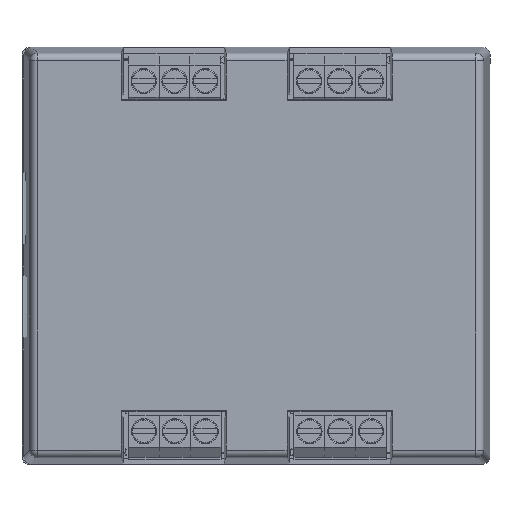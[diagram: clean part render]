
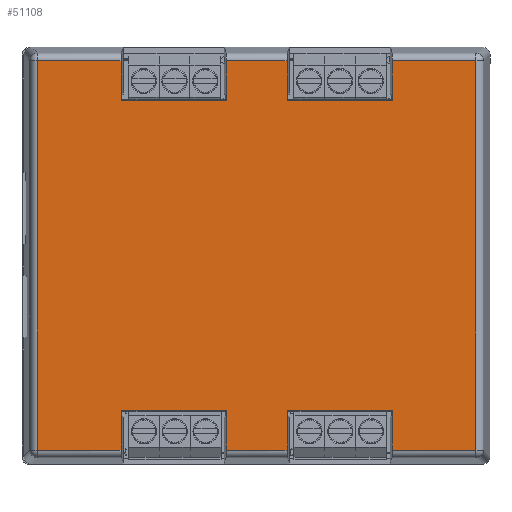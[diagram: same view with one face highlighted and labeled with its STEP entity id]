
A CAD part, top view. The second image highlights one B-rep face of the part: STEP entity #51108.
In plain terms, the highlighted planar face has unit normal (-0.003, 0, 1) as drawn and (0, 0, -1) by its records, which use the part's own axes.
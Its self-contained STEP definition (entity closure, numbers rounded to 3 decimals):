
#18434=VERTEX_POINT('',#78055);
#18435=VERTEX_POINT('',#78057);
#18441=VERTEX_POINT('',#78070);
#18442=VERTEX_POINT('',#78072);
#18454=VERTEX_POINT('',#78105);
#18455=VERTEX_POINT('',#78107);
#18470=VERTEX_POINT('',#78150);
#18471=VERTEX_POINT('',#78152);
#18485=VERTEX_POINT('',#78187);
#18486=VERTEX_POINT('',#78189);
#18499=VERTEX_POINT('',#78226);
#18500=VERTEX_POINT('',#78228);
#18666=VERTEX_POINT('',#78651);
#18668=VERTEX_POINT('',#78657);
#18669=VERTEX_POINT('',#78661);
#18671=VERTEX_POINT('',#78667);
#18674=VERTEX_POINT('',#78679);
#18682=VERTEX_POINT('',#78702);
#18683=VERTEX_POINT('',#78704);
#18684=VERTEX_POINT('',#78706);
#22655=VECTOR('',#61809,1.);
#22662=VECTOR('',#61817,1.);
#22679=VECTOR('',#61840,1.);
#22698=VECTOR('',#61872,1.);
#22716=VECTOR('',#61895,1.);
#22733=VECTOR('',#61922,1.);
#22925=VECTOR('',#62165,1.);
#22927=VECTOR('',#62168,1.);
#22929=VECTOR('',#62173,1.);
#22931=VECTOR('',#62176,1.);
#22933=VECTOR('',#62181,1.);
#22934=VECTOR('',#62183,1.);
#22937=VECTOR('',#62194,1.);
#22945=VECTOR('',#62212,1.);
#22946=VECTOR('',#62213,1.);
#22947=VECTOR('',#62214,1.);
#26981=LINE('',#78056,#22655);
#26988=LINE('',#78071,#22662);
#27005=LINE('',#78106,#22679);
#27024=LINE('',#78151,#22698);
#27042=LINE('',#78188,#22716);
#27059=LINE('',#78227,#22733);
#27251=LINE('',#78648,#22925);
#27253=LINE('',#78652,#22927);
#27255=LINE('',#78658,#22929);
#27257=LINE('',#78662,#22931);
#27259=LINE('',#78668,#22933);
#27260=LINE('',#78670,#22934);
#27263=LINE('',#78680,#22937);
#27271=LINE('',#78701,#22945);
#27272=LINE('',#78703,#22946);
#27273=LINE('',#78705,#22947);
#32571=EDGE_CURVE('',#18435,#18434,#26981,.F.);
#32578=EDGE_CURVE('',#18442,#18441,#26988,.F.);
#32598=EDGE_CURVE('',#18455,#18454,#27005,.F.);
#32621=EDGE_CURVE('',#18471,#18470,#27024,.F.);
#32642=EDGE_CURVE('',#18486,#18485,#27042,.F.);
#32665=EDGE_CURVE('',#18500,#18499,#27059,.F.);
#32894=EDGE_CURVE('',#18441,#18435,#27251,.F.);
#32896=EDGE_CURVE('',#18454,#18666,#27253,.F.);
#32899=EDGE_CURVE('',#18666,#18668,#27255,.F.);
#32901=EDGE_CURVE('',#18470,#18669,#27257,.F.);
#32904=EDGE_CURVE('',#18669,#18671,#27259,.F.);
#32905=EDGE_CURVE('',#18485,#18500,#27260,.F.);
#32914=EDGE_CURVE('',#18674,#18668,#27263,.T.);
#32916=EDGE_CURVE('',#18455,#18434,#27263,.T.);
#32932=EDGE_CURVE('',#18682,#18674,#27271,.T.);
#32933=EDGE_CURVE('',#18471,#18682,#27272,.T.);
#32934=EDGE_CURVE('',#18486,#18671,#27272,.T.);
#32935=EDGE_CURVE('',#18683,#18499,#27272,.T.);
#32936=EDGE_CURVE('',#18684,#18683,#27273,.T.);
#32937=EDGE_CURVE('',#18442,#18684,#27263,.T.);
#43945=ORIENTED_EDGE('',*,*,#32578,.T.);
#43946=ORIENTED_EDGE('',*,*,#32894,.T.);
#43947=ORIENTED_EDGE('',*,*,#32571,.T.);
#43948=ORIENTED_EDGE('',*,*,#32916,.F.);
#43949=ORIENTED_EDGE('',*,*,#32598,.T.);
#43950=ORIENTED_EDGE('',*,*,#32896,.T.);
#43951=ORIENTED_EDGE('',*,*,#32899,.T.);
#43952=ORIENTED_EDGE('',*,*,#32914,.F.);
#43953=ORIENTED_EDGE('',*,*,#32932,.F.);
#43954=ORIENTED_EDGE('',*,*,#32933,.F.);
#43955=ORIENTED_EDGE('',*,*,#32621,.T.);
#43956=ORIENTED_EDGE('',*,*,#32901,.T.);
#43957=ORIENTED_EDGE('',*,*,#32904,.T.);
#43958=ORIENTED_EDGE('',*,*,#32934,.F.);
#43959=ORIENTED_EDGE('',*,*,#32642,.T.);
#43960=ORIENTED_EDGE('',*,*,#32905,.T.);
#43961=ORIENTED_EDGE('',*,*,#32665,.T.);
#43962=ORIENTED_EDGE('',*,*,#32935,.F.);
#43963=ORIENTED_EDGE('',*,*,#32936,.F.);
#43964=ORIENTED_EDGE('',*,*,#32937,.F.);
#46685=EDGE_LOOP('',(#43945,#43946,#43947,#43948,#43949,#43950,#43951,#43952,
#43953,#43954,#43955,#43956,#43957,#43958,#43959,#43960,#43961,#43962,#43963,
#43964));
#48993=FACE_BOUND('',#46685,.T.);
#51108=ADVANCED_FACE('',(#48993),#80449,.F.);
#53920=AXIS2_PLACEMENT_3D('',#78700,#62211,$);
#61809=DIRECTION('',(0.,1.,0.));
#61817=DIRECTION('',(0.,-1.,0.));
#61840=DIRECTION('',(0.,-1.,0.));
#61872=DIRECTION('',(0.,1.,0.));
#61895=DIRECTION('',(0.,1.,0.));
#61922=DIRECTION('',(0.,-1.,0.));
#62165=DIRECTION('',(1.,0.,0.));
#62168=DIRECTION('',(1.,0.,0.));
#62173=DIRECTION('',(0.,1.,0.));
#62176=DIRECTION('',(-1.,0.,0.));
#62181=DIRECTION('',(0.,-1.,0.));
#62183=DIRECTION('',(-1.,0.,0.));
#62194=DIRECTION('',(1.,0.,0.));
#62211=DIRECTION('',(0.,0.,1.));
#62212=DIRECTION('',(0.,-1.,0.));
#62213=DIRECTION('',(-1.,0.,0.));
#62214=DIRECTION('',(0.,1.,0.));
#78055=CARTESIAN_POINT('',(0.493,-3.157,-0.003));
#78056=CARTESIAN_POINT('',(0.493,-0.737,-0.003));
#78057=CARTESIAN_POINT('',(0.493,-2.513,-0.003));
#78070=CARTESIAN_POINT('',(2.2,-2.513,-0.003));
#78071=CARTESIAN_POINT('',(2.2,-0.737,-0.003));
#78072=CARTESIAN_POINT('',(2.2,-3.157,-0.003));
#78105=CARTESIAN_POINT('',(-0.493,-2.513,-0.003));
#78106=CARTESIAN_POINT('',(-0.493,-0.737,-0.003));
#78107=CARTESIAN_POINT('',(-0.493,-3.157,-0.003));
#78150=CARTESIAN_POINT('',(-2.2,2.513,-0.003));
#78151=CARTESIAN_POINT('',(-2.2,0.737,-0.003));
#78152=CARTESIAN_POINT('',(-2.2,3.157,-0.003));
#78187=CARTESIAN_POINT('',(0.493,2.513,-0.003));
#78188=CARTESIAN_POINT('',(0.493,0.737,-0.003));
#78189=CARTESIAN_POINT('',(0.493,3.157,-0.003));
#78226=CARTESIAN_POINT('',(2.2,3.157,-0.003));
#78227=CARTESIAN_POINT('',(2.2,0.737,-0.003));
#78228=CARTESIAN_POINT('',(2.2,2.513,-0.003));
#78648=CARTESIAN_POINT('',(0.337,-2.513,-0.003));
#78651=CARTESIAN_POINT('',(-2.2,-2.513,-0.003));
#78652=CARTESIAN_POINT('',(-0.337,-2.513,-0.003));
#78657=CARTESIAN_POINT('',(-2.2,-3.157,-0.003));
#78658=CARTESIAN_POINT('',(-2.2,-0.737,-0.003));
#78661=CARTESIAN_POINT('',(-0.493,2.513,-0.003));
#78662=CARTESIAN_POINT('',(-0.337,2.513,-0.003));
#78667=CARTESIAN_POINT('',(-0.493,3.157,-0.003));
#78668=CARTESIAN_POINT('',(-0.493,0.737,-0.003));
#78670=CARTESIAN_POINT('',(0.337,2.513,-0.003));
#78679=CARTESIAN_POINT('',(-3.557,-3.157,-0.003));
#78680=CARTESIAN_POINT('',(0.,-3.157,-0.003));
#78700=CARTESIAN_POINT('',(0.,0.,-0.003));
#78701=CARTESIAN_POINT('',(-3.557,0.,-0.003));
#78702=CARTESIAN_POINT('',(-3.557,3.157,-0.003));
#78703=CARTESIAN_POINT('',(0.,3.157,-0.003));
#78704=CARTESIAN_POINT('',(3.557,3.157,-0.003));
#78705=CARTESIAN_POINT('',(3.557,0.,-0.003));
#78706=CARTESIAN_POINT('',(3.557,-3.157,-0.003));
#80449=PLANE('',#53920);
